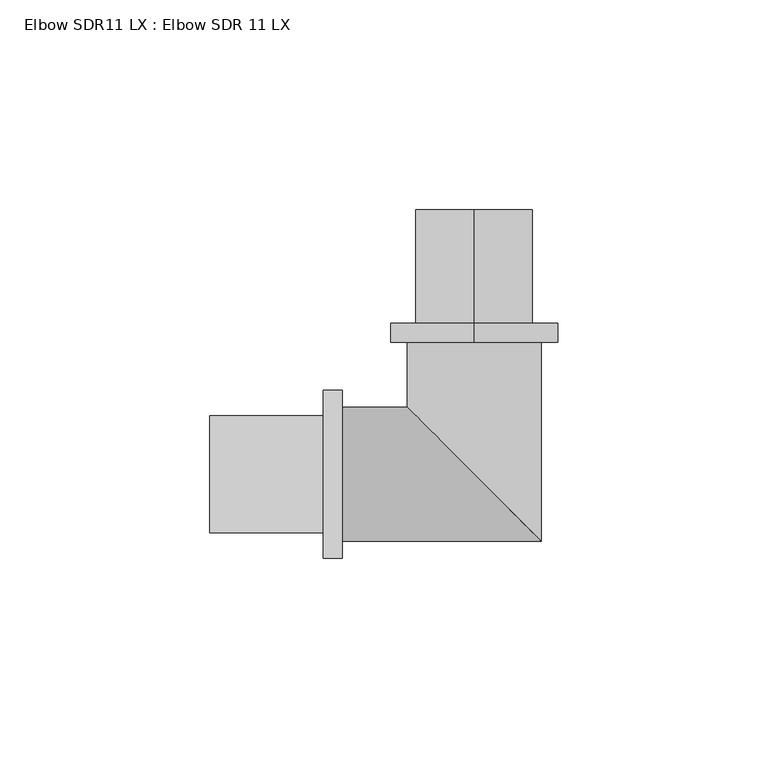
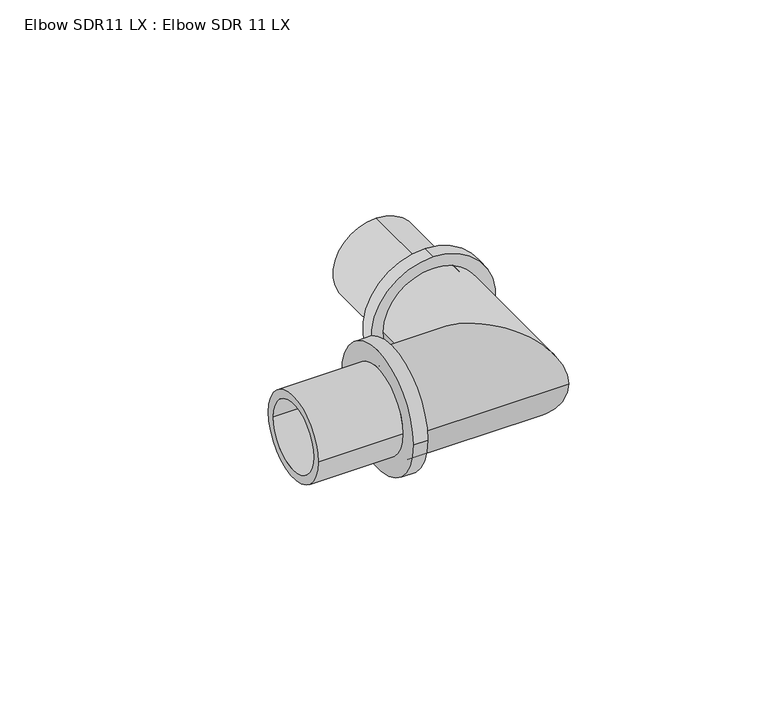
"""IFC4 building model written with IfcOpenShell, lengths in millimetres: pipe fitting geometry, Elbow SDR11 LX : Elbow SDR 11 LX."""

from ifc_helpers import new_model, si_unit, frame, origin, place, context, project, spatial, polyline, circle_curve, ellipse_curve, source, transform, mapped, element, save
from ifc_brep_helpers import plane_surface, cylinder_surface, revolved_surface, advanced_brep


def elbow_sdr11_lx_elbow_sdr_11_lx_04f5514c(model_context):
    return source(origin(), model_context, "Body", "AdvancedBrep", [
        advanced_brep(
        [(-31.5, -16.0, 0.0), (-31.5, 16.0, 0.0), (-31.5, -11.2, 0.0), (-31.5, 11.2, 0.0), (16.0, -16.0, 0.0), (-16.0, 16.0, 0.0), (11.2, -11.2, 0.0), (-11.2, 11.2, 0.0), (16.0, 31.5, 0.0), (-16.0, 31.5, 0.0), (11.2, 31.5, 0.0), (-11.2, 31.5, 0.0)],
        [
            (0, 1, circle_curve(frame((-31.5, 0.0, 0.0), z_axis=(-1.0, 0.0, 0.0), x_axis=(0.0, 1.0, 0.0)), 16.0)),
            (1, 0, circle_curve(frame((-31.5, 0.0, 0.0), z_axis=(-1.0, 0.0, 0.0), x_axis=(0.0, 1.0, 0.0)), 16.0)),
            (2, 3, circle_curve(frame((-31.5, 0.0, 0.0), z_axis=(1.0, 0.0, 0.0), x_axis=(0.0, 1.0, 0.0)), 11.2)),
            (3, 2, circle_curve(frame((-31.5, 0.0, 0.0), z_axis=(1.0, 0.0, 0.0), x_axis=(0.0, 1.0, 0.0)), 11.2)),
            (0, 4),
            (4, 5, ellipse_curve(frame((0.0, 0.0, 0.0), z_axis=(-0.7071067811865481, -0.7071067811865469, 0.0), x_axis=(-0.7071067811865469, 0.7071067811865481, 0.0)), 22.627417, 16.0)),
            (5, 1),
            (5, 4, ellipse_curve(frame((0.0, 0.0, 0.0), z_axis=(-0.7071067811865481, -0.7071067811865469, 0.0), x_axis=(-0.7071067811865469, 0.7071067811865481, 0.0)), 22.627417, 16.0)),
            (2, 6),
            (6, 7, ellipse_curve(frame((0.0, 0.0, 0.0), z_axis=(0.7071067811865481, 0.7071067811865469, 0.0), x_axis=(0.7071067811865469, -0.7071067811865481, 0.0)), 15.8391919, 11.2)),
            (7, 3),
            (7, 6, ellipse_curve(frame((0.0, 0.0, 0.0), z_axis=(0.7071067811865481, 0.7071067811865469, 0.0), x_axis=(0.7071067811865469, -0.7071067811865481, 0.0)), 15.8391919, 11.2)),
            (8, 9, circle_curve(frame((0.0, 31.5, 0.0), z_axis=(0.0, 1.0, 0.0), x_axis=(-1.0, 0.0, 0.0)), 16.0)),
            (9, 8, circle_curve(frame((0.0, 31.5, 0.0), z_axis=(0.0, 1.0, 0.0), x_axis=(-1.0, 0.0, 0.0)), 16.0)),
            (10, 11, circle_curve(frame((0.0, 31.5, 0.0), z_axis=(0.0, -1.0, 0.0), x_axis=(-1.0, 0.0, 0.0)), 11.2)),
            (11, 10, circle_curve(frame((0.0, 31.5, 0.0), z_axis=(0.0, -1.0, 0.0), x_axis=(-1.0, 0.0, 0.0)), 11.2)),
            (4, 8),
            (9, 5),
            (6, 10),
            (11, 7),
        ],
        [
            plane_surface(frame((-31.5, 0.0, 0.0), z_axis=(-1.0, 0.0, 0.0), x_axis=(0.0, 0.0, 1.0))),
            cylinder_surface(frame((-31.5, 0.0, 0.0), z_axis=(-1.0, 0.0, 0.0), x_axis=(0.0, 1.0, 0.0)), 16.0),
            revolved_surface(polyline([(11.200000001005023, 11.2, 0.0), (-31.5, 11.2, 0.0)]), (-31.5, 0.0, 0.0), (1.0, 0.0, 0.0)),
            plane_surface(frame((0.0, 31.5, 0.0), z_axis=(0.0, 1.0, 0.0), x_axis=(0.0, 0.0, 1.0))),
            cylinder_surface(frame((0.0, 0.0, 0.0), z_axis=(0.0, -1.0, 0.0), x_axis=(-1.0, 0.0, 0.0)), 16.0),
            revolved_surface(polyline([(-11.2, 31.5, 0.0), (-11.2, -11.200000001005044, 0.0)]), (0.0, 0.0, 0.0), (0.0, 1.0, 0.0)),
        ],
        [
            (0, [[1, 2], [3, 4]]),
            (1, [[-1, 5, 6, 7]]),
            (1, [[-2, -7, 8, -5]]),
            (2, [[-3, 9, 10, 11]]),
            (2, [[-4, -11, 12, -9]]),
            (3, [[13, 14], [15, 16]]),
            (4, [[-6, 17, -14, 18]]),
            (4, [[-8, -18, -13, -17]]),
            (5, [[-10, 19, -16, 20]]),
            (5, [[-12, -20, -15, -19]]),
        ],
    ),
        advanced_brep(
        [(0.0, 63.0, 11.2), (0.0, 63.0, -11.2), (0.0, 31.5, -11.2), (0.0, 31.5, 11.2), (0.0, 36.0, 13.95), (0.0, 36.0, -13.95), (0.0, 63.0, -13.95), (0.0, 63.0, 13.95), (0.0, 31.5, 20.0), (0.0, 31.5, -20.0), (0.0, 36.0, -20.0), (0.0, 36.0, 20.0)],
        [
            (0, 1, circle_curve(frame((0.0, 63.0, 0.0), z_axis=(0.0, 1.0, 0.0), x_axis=(0.0, 0.0, -1.0)), 11.2)),
            (1, 2),
            (2, 3, circle_curve(frame((0.0, 31.5, 0.0), z_axis=(0.0, -1.0, 0.0), x_axis=(0.0, 0.0, -1.0)), 11.2)),
            (3, 0),
            (4, 5, circle_curve(frame((0.0, 36.0, 0.0), z_axis=(0.0, 1.0, 0.0), x_axis=(0.0, 0.0, -1.0)), 13.95)),
            (5, 6),
            (6, 7, circle_curve(frame((0.0, 63.0, 0.0), z_axis=(0.0, -1.0, 0.0), x_axis=(0.0, 0.0, -1.0)), 13.95)),
            (7, 4),
            (8, 9, circle_curve(frame((0.0, 31.5, 0.0), z_axis=(0.0, 1.0, 0.0), x_axis=(0.0, 0.0, -1.0)), 20.0)),
            (9, 10),
            (10, 11, circle_curve(frame((0.0, 36.0, 0.0), z_axis=(0.0, -1.0, 0.0), x_axis=(0.0, 0.0, -1.0)), 20.0)),
            (11, 8),
            (1, 0, circle_curve(frame((0.0, 63.0, 0.0), z_axis=(0.0, 1.0, 0.0), x_axis=(0.0, 0.0, 1.0)), 11.2)),
            (3, 2, circle_curve(frame((0.0, 31.5, 0.0), z_axis=(0.0, -1.0, 0.0), x_axis=(0.0, 0.0, 1.0)), 11.2)),
            (6, 7, circle_curve(frame((0.0, 63.0, 0.0), z_axis=(0.0, 1.0, 0.0), x_axis=(0.0, 0.0, 1.0)), 13.95)),
            (5, 4, circle_curve(frame((0.0, 36.0, 0.0), z_axis=(0.0, 1.0, 0.0), x_axis=(0.0, 0.0, 1.0)), 13.95)),
            (10, 11, circle_curve(frame((0.0, 36.0, 0.0), z_axis=(0.0, 1.0, 0.0), x_axis=(0.0, 0.0, 1.0)), 20.0)),
            (9, 8, circle_curve(frame((0.0, 31.5, 0.0), z_axis=(0.0, 1.0, 0.0), x_axis=(0.0, 0.0, 1.0)), 20.0)),
        ],
        [
            revolved_surface(polyline([(0.0, 31.5, -11.2), (0.0, 63.0, -11.2)]), (0.0, 0.0, 0.0), (0.0, -1.0, 0.0)),
            cylinder_surface(frame((0.0, 0.0, 0.0), z_axis=(0.0, -1.0, 0.0), x_axis=(0.0, 0.0, -1.0)), 13.95),
            cylinder_surface(frame((0.0, 0.0, 0.0), z_axis=(0.0, -1.0, 0.0), x_axis=(0.0, 0.0, -1.0)), 20.0),
            revolved_surface(polyline([(0.0, 31.5, 11.2), (0.0, 63.0, 11.2)]), (0.0, 0.0, 0.0), (0.0, -1.0, 0.0)),
            plane_surface(frame((0.0, 63.0, 0.0), z_axis=(0.0, 1.0, 0.0), x_axis=(0.0, 0.0, 1.0))),
            cylinder_surface(frame((0.0, 0.0, 0.0), z_axis=(0.0, -1.0, 0.0), x_axis=(0.0, 0.0, 1.0)), 13.95),
            plane_surface(frame((0.0, 36.0, 0.0), z_axis=(0.0, 1.0, 0.0), x_axis=(0.0, 0.0, 1.0))),
            cylinder_surface(frame((0.0, 0.0, 0.0), z_axis=(0.0, -1.0, 0.0), x_axis=(0.0, 0.0, 1.0)), 20.0),
            plane_surface(frame((0.0, 31.5, 0.0), z_axis=(0.0, -1.0, 0.0), x_axis=(0.0, 0.0, 1.0))),
        ],
        [
            (0, [[1, 2, 3, 4]]),
            (1, [[5, 6, 7, 8]]),
            (2, [[9, 10, 11, 12]]),
            (3, [[13, -4, 14, -2]]),
            (4, [[15, -7], [-13, -1]]),
            (5, [[16, -8, -15, -6]]),
            (6, [[17, -11], [-16, -5]]),
            (7, [[18, -12, -17, -10]]),
            (8, [[-18, -9], [-14, -3]]),
        ],
    ),
        advanced_brep(
        [(-31.5, 20.0, 0.0), (-31.5, -20.0, 0.0), (-36.0, -20.0, 0.0), (-36.0, 20.0, 0.0), (-36.0, 13.95, 0.0), (-36.0, -13.95, 0.0), (-63.0, -13.95, 0.0), (-63.0, 13.95, 0.0), (-63.0, 11.2, 0.0), (-63.0, -11.2, 0.0), (-31.5, -11.2, 0.0), (-31.5, 11.2, 0.0)],
        [
            (0, 1, circle_curve(frame((-31.5, 0.0, 0.0), z_axis=(-1.0, 0.0, 0.0), x_axis=(0.0, -1.0, 0.0)), 20.0)),
            (1, 2),
            (2, 3, circle_curve(frame((-36.0, 0.0, 0.0), z_axis=(1.0, 0.0, 0.0), x_axis=(0.0, -1.0, 0.0)), 20.0)),
            (3, 0),
            (4, 5, circle_curve(frame((-36.0, 0.0, 0.0), z_axis=(-1.0, 0.0, 0.0), x_axis=(0.0, -1.0, 0.0)), 13.95)),
            (5, 6),
            (6, 7, circle_curve(frame((-63.0, 0.0, 0.0), z_axis=(1.0, 0.0, 0.0), x_axis=(0.0, -1.0, 0.0)), 13.95)),
            (7, 4),
            (8, 9, circle_curve(frame((-63.0, 0.0, 0.0), z_axis=(-1.0, 0.0, 0.0), x_axis=(0.0, -1.0, 0.0)), 11.2)),
            (9, 10),
            (10, 11, circle_curve(frame((-31.5, 0.0, 0.0), z_axis=(1.0, 0.0, 0.0), x_axis=(0.0, -1.0, 0.0)), 11.2)),
            (11, 8),
            (0, 1, circle_curve(frame((-31.5, 0.0, 0.0), z_axis=(1.0, 0.0, 0.0), x_axis=(0.0, 1.0, 0.0)), 20.0)),
            (10, 11, circle_curve(frame((-31.5, 0.0, 0.0), z_axis=(-1.0, 0.0, 0.0), x_axis=(0.0, 1.0, 0.0)), 11.2)),
            (3, 2, circle_curve(frame((-36.0, 0.0, 0.0), z_axis=(1.0, 0.0, 0.0), x_axis=(0.0, 1.0, 0.0)), 20.0)),
            (4, 5, circle_curve(frame((-36.0, 0.0, 0.0), z_axis=(1.0, 0.0, 0.0), x_axis=(0.0, 1.0, 0.0)), 13.95)),
            (7, 6, circle_curve(frame((-63.0, 0.0, 0.0), z_axis=(1.0, 0.0, 0.0), x_axis=(0.0, 1.0, 0.0)), 13.95)),
            (8, 9, circle_curve(frame((-63.0, 0.0, 0.0), z_axis=(1.0, 0.0, 0.0), x_axis=(0.0, 1.0, 0.0)), 11.2)),
        ],
        [
            cylinder_surface(frame((0.0, 0.0, 0.0), z_axis=(1.0, 0.0, 0.0), x_axis=(0.0, -1.0, 0.0)), 20.0),
            cylinder_surface(frame((0.0, 0.0, 0.0), z_axis=(1.0, 0.0, 0.0), x_axis=(0.0, -1.0, 0.0)), 13.95),
            revolved_surface(polyline([(-31.5, -11.2, 0.0), (-63.0, -11.2, 0.0)]), (0.0, 0.0, 0.0), (1.0, 0.0, 0.0)),
            plane_surface(frame((-31.5, 0.0, 0.0), z_axis=(1.0, 0.0, 0.0), x_axis=(0.0, 1.0, 0.0))),
            cylinder_surface(frame((0.0, 0.0, 0.0), z_axis=(1.0, 0.0, 0.0), x_axis=(0.0, 1.0, 0.0)), 20.0),
            plane_surface(frame((-36.0, 0.0, 0.0), z_axis=(-1.0, 0.0, 0.0), x_axis=(0.0, 1.0, 0.0))),
            cylinder_surface(frame((0.0, 0.0, 0.0), z_axis=(1.0, 0.0, 0.0), x_axis=(0.0, 1.0, 0.0)), 13.95),
            plane_surface(frame((-63.0, 0.0, 0.0), z_axis=(-1.0, 0.0, 0.0), x_axis=(0.0, 1.0, 0.0))),
            revolved_surface(polyline([(-31.5, 11.2, 0.0), (-63.0, 11.2, 0.0)]), (0.0, 0.0, 0.0), (1.0, 0.0, 0.0)),
        ],
        [
            (0, [[1, 2, 3, 4]]),
            (1, [[5, 6, 7, 8]]),
            (2, [[9, 10, 11, 12]]),
            (3, [[13, -1], [14, -11]]),
            (4, [[-13, -4, 15, -2]]),
            (5, [[-15, -3], [16, -5]]),
            (6, [[-16, -8, 17, -6]]),
            (7, [[-17, -7], [18, -9]]),
            (8, [[-18, -12, -14, -10]]),
        ],
    ),
    ])


if __name__ == "__main__":
    model = new_model("IFC4")
    model_context = context("Model", 3, world=origin())
    ifc_project = project(units=[si_unit("LENGTHUNIT", "METRE", prefix="MILLI")], contexts=[model_context])
    site = spatial("IfcSite", under=ifc_project)
    building = spatial("IfcBuilding", under=site)
    placement = place(None, origin())
    elbow_sdr11_lx_elbow_sdr_11_lx_shape = elbow_sdr11_lx_elbow_sdr_11_lx_04f5514c(model_context)
    element("IfcPipeFitting", 1, ObjectType="Elbow SDR11 LX : Elbow SDR 11 LX", at=placement, inside=building, context=model_context, shape_type="MappedRepresentation", body=[
        mapped(elbow_sdr11_lx_elbow_sdr_11_lx_shape, transform((0.0, 0.0, 0.0), x_axis=(1.0, 0.0, 0.0), y_axis=(0.0, 1.0, 0.0), z_axis=(0.0, 0.0, 1.0))),
    ])
    save(model, "model.ifc")
